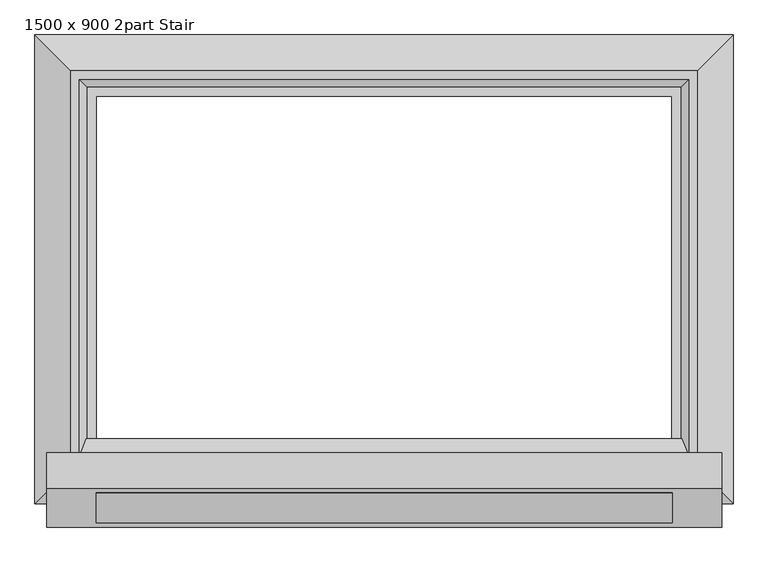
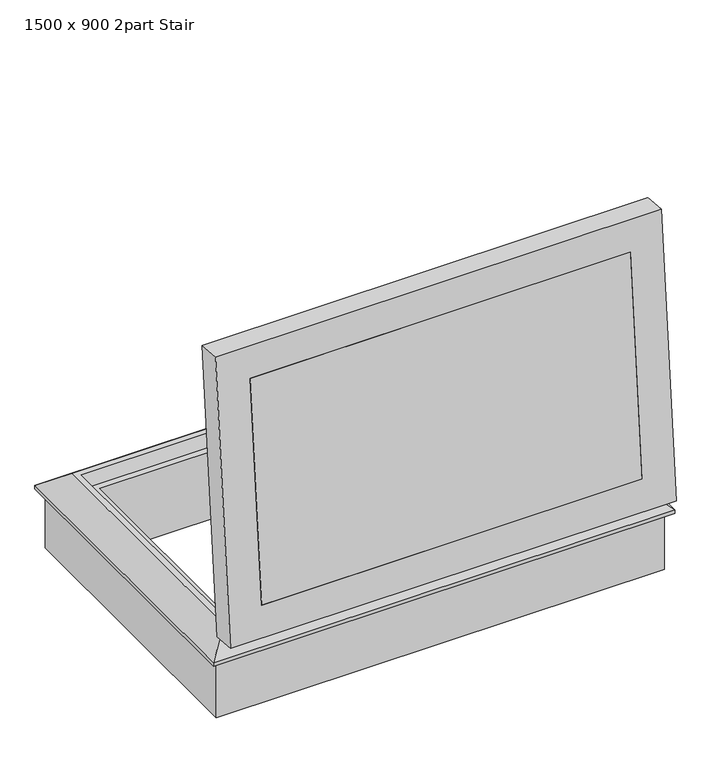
"""IFC4 building model written with IfcOpenShell, lengths in millimetres: proxy geometry, 4_Topaccess_dakluik_1500x900_Staka : 1500 x 900 2part Stair."""

from ifc_helpers import new_model, si_unit, point, frame, frame_2d, origin, place, context, project, spatial, polyline, circle_curve, trimmed, segment, composite_curve, outline, extrude, faceted_brep, source, transform, mapped, element, save


def proxy_1500_x_900_2part_stair_46a1e432(model_context):
    return source(origin(), model_context, "Body", "SolidModel", [
        extrude(outline(composite_curve([segment(polyline([(-334.1775112, 328.3506402), (-301.289293, 316.2108892), (-348.1414216, 278.7291863), (-358.0740728, 291.1450004)]), True, "CONTINUOUS"), segment(trimmed(circle_curve(frame_2d((-352.0609228, 295.2162043)), 7.2617267), [point((-358.0740728, 291.1450004))], [point((-359.2338356, 296.3484571))], False, "CARTESIAN"), True, "CONTINUOUS"), segment(polyline([(-359.2338356, 296.3484571), (-352.0421212, 341.9085495)]), True, "CONTINUOUS"), segment(trimmed(circle_curve(frame_2d((-346.6570009, 339.3403204)), 5.9661815), [point((-352.0421212, 341.9085495))], [point((-340.7117924, 338.840502))], False, "CARTESIAN"), True, "CONTINUOUS"), segment(trimmed(circle_curve(frame_2d((-330.6879097, 337.80444)), 10.0772838), [point((-340.7117924, 338.840502))], [point((-334.1775112, 328.3506402))], True, "CARTESIAN"), True, "CONTINUOUS")], self_intersect=False)), frame((-1631.2697623, 0.0, 0.0), z_axis=(1.0, 0.0, 0.0), x_axis=(0.0, 1.0, 0.0)), (0.0, 0.0, 1.0), 31.5237414),
        extrude(outline(composite_curve([segment(polyline([(-334.1775112, 328.3506402), (-301.289293, 316.2108892), (-348.1414216, 278.7291863), (-358.0740728, 291.1450004)]), True, "CONTINUOUS"), segment(trimmed(circle_curve(frame_2d((-352.0609228, 295.2162043)), 7.2617267), [point((-358.0740728, 291.1450004))], [point((-359.2338356, 296.3484571))], False, "CARTESIAN"), True, "CONTINUOUS"), segment(polyline([(-359.2338356, 296.3484571), (-352.0421212, 341.9085495)]), True, "CONTINUOUS"), segment(trimmed(circle_curve(frame_2d((-346.6570009, 339.3403204)), 5.9661815), [point((-352.0421212, 341.9085495))], [point((-340.7117924, 338.840502))], False, "CARTESIAN"), True, "CONTINUOUS"), segment(trimmed(circle_curve(frame_2d((-330.6879097, 337.80444)), 10.0772838), [point((-340.7117924, 338.840502))], [point((-334.1775112, 328.3506402))], True, "CARTESIAN"), True, "CONTINUOUS")], self_intersect=False)), frame((-164.9931051, 0.0, 0.0), z_axis=(1.0, 0.0, 0.0), x_axis=(0.0, 1.0, 0.0)), (0.0, 0.0, 1.0), 33.7233427),
        faceted_brep([(-61.2697623, 753.4470955, 328.0), (30.7302377, 845.4470955, 254.4), (-1793.2697623, 845.4470955, 254.4), (-1701.2697623, 753.4470955, 328.0), (-105.2697623, 709.4470955, 282.0), (-85.7439208, 728.9729371, 328.0), (-1676.7956039, 728.9729371, 328.0), (-1657.2697623, 709.4470955, 282.0), (-131.2697623, 683.4470955, 0.0), (-131.2697623, 683.4470955, 282.0), (-1631.2697623, 683.4470955, 282.0), (-1631.2697623, 683.4470955, 0.0), (4.7302377, 819.4470955, 240.0), (4.7302377, 819.4470955, 0.0), (-1767.2697623, 819.4470955, 0.0), (-1767.2697623, 819.4470955, 240.0), (30.7302377, 845.4470955, 240.0), (-1793.2697623, 845.4470955, 240.0), (-1793.2697623, -378.5529045, 254.4), (-1701.2697623, -286.5529045, 328.0), (-1676.7956039, -262.078746, 328.0), (-1657.2697623, -242.5529045, 282.0), (-1631.2697623, -216.5529045, 282.0), (-1631.2697623, -216.5529045, 0.0), (-1767.2697623, -352.5529045, 0.0), (-1767.2697623, -352.5529045, 240.0), (-1793.2697623, -378.5529045, 240.0), (30.7302377, -378.5529045, 254.4), (-61.2697623, -286.5529045, 328.0), (-85.7439208, -262.078746, 328.0), (-105.2697623, -242.5529045, 282.0), (-131.2697623, -216.5529045, 282.0), (-131.2697623, -216.5529045, 0.0), (4.7302377, -352.5529045, 0.0), (4.7302377, -352.5529045, 240.0), (30.7302377, -378.5529045, 240.0)], [[[0, 1, 2, 3]], [[4, 5, 6, 7]], [[8, 9, 10, 11]], [[12, 13, 14, 15]], [[1, 16, 17, 2]], [[3, 2, 18, 19]], [[7, 6, 20, 21]], [[11, 10, 22, 23]], [[15, 14, 24, 25]], [[2, 17, 26, 18]], [[19, 18, 27, 28]], [[21, 20, 29, 30]], [[23, 22, 31, 32]], [[25, 24, 33, 34]], [[18, 26, 35, 27]], [[28, 27, 1, 0]], [[3, 19, 28, 0], [5, 29, 20, 6]], [[30, 29, 5, 4]], [[7, 21, 30, 4], [9, 31, 22, 10]], [[32, 31, 9, 8]], [[13, 33, 24, 14], [11, 23, 32, 8]], [[34, 33, 13, 12]], [[16, 35, 26, 17], [15, 25, 34, 12]], [[27, 35, 16, 1]]]),
        extrude(outline(polyline([(0.0, -1505.0), (0.0, 0.0), (139.4, 0.0), (139.4, -1505.0), (0.0, -1505.0)])), frame((-1633.2725908, -428.8183427, 470.0146001), z_axis=(0.0, 0.08715574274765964, 0.9961946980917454), x_axis=(0.0, 0.9961946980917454, -0.08715574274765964)), (0.0, 0.0, 1.0), 904.0),
        faceted_brep([(-128.2725908, -211.1600104, 1358.4250967), (-128.2725908, -350.0295513, 1370.5746072), (-1633.2725908, -350.0295513, 1370.5746072), (-1633.2725908, -211.1600104, 1358.4250967), (-85.2725908, -253.6357474, 1405.3054951), (-102.8725908, -208.9462545, 1383.728442), (-1658.6725908, -208.9462545, 1383.728442), (-1676.2725908, -253.6357474, 1405.3054951), (0.7274092, -338.7864605, 1499.0837233), (0.7274092, -246.1403535, 1490.9782392), (-1762.2725908, -246.1403535, 1490.9782392), (-1762.2725908, -338.7864605, 1499.0837233), (-1633.2725908, -428.8183427, 470.0146001), (-1633.2725908, -289.9488018, 457.8650896), (-1658.6725908, -292.1625577, 432.5617443), (-1676.2725908, -339.9199327, 419.072744), (-1762.2725908, -347.4153266, 333.4), (-1762.2725908, -440.0614335, 341.5054841), (-128.2725908, -428.8183427, 470.0146001), (-128.2725908, -289.9488018, 457.8650896), (-102.8725908, -292.1625577, 432.5617443), (-85.2725908, -339.9199327, 419.072744), (0.7274092, -347.4153266, 333.4), (0.7274092, -440.0614335, 341.5054841)], [[[0, 1, 2, 3]], [[4, 5, 6, 7]], [[8, 9, 10, 11]], [[3, 2, 12, 13]], [[7, 6, 14, 15]], [[11, 10, 16, 17]], [[13, 12, 18, 19]], [[15, 14, 20, 21]], [[17, 16, 22, 23]], [[19, 18, 1, 0]], [[5, 20, 14, 6], [3, 13, 19, 0]], [[21, 20, 5, 4]], [[9, 22, 16, 10], [7, 15, 21, 4]], [[23, 22, 9, 8]], [[11, 17, 23, 8], [1, 18, 12, 2]]]),
    ])


if __name__ == "__main__":
    model = new_model("IFC4")
    model_context = context("Model", 3, world=origin())
    ifc_project = project(units=[si_unit("LENGTHUNIT", "METRE", prefix="MILLI")], contexts=[model_context])
    site = spatial("IfcSite", under=ifc_project)
    building = spatial("IfcBuilding", under=site)
    placement = place(None, origin())
    proxy_1500_x_900_2part_stair_shape = proxy_1500_x_900_2part_stair_46a1e432(model_context)
    element("IfcBuildingElementProxy", 1, Name="4_Topaccess_dakluik_1500x900_Staka : 1500 x 900 2part Stair", ObjectType="4_Topaccess_dakluik_1500x900_Staka : 1500 x 900 2part Stair", at=placement, inside=building, context=model_context, shape_type="MappedRepresentation", body=[
        mapped(proxy_1500_x_900_2part_stair_shape, transform((0.0, 0.0, 0.0), x_axis=(1.0, 0.0, 0.0), y_axis=(0.0, 1.0, 0.0), z_axis=(0.0, 0.0, 1.0))),
    ])
    save(model, "model.ifc")
